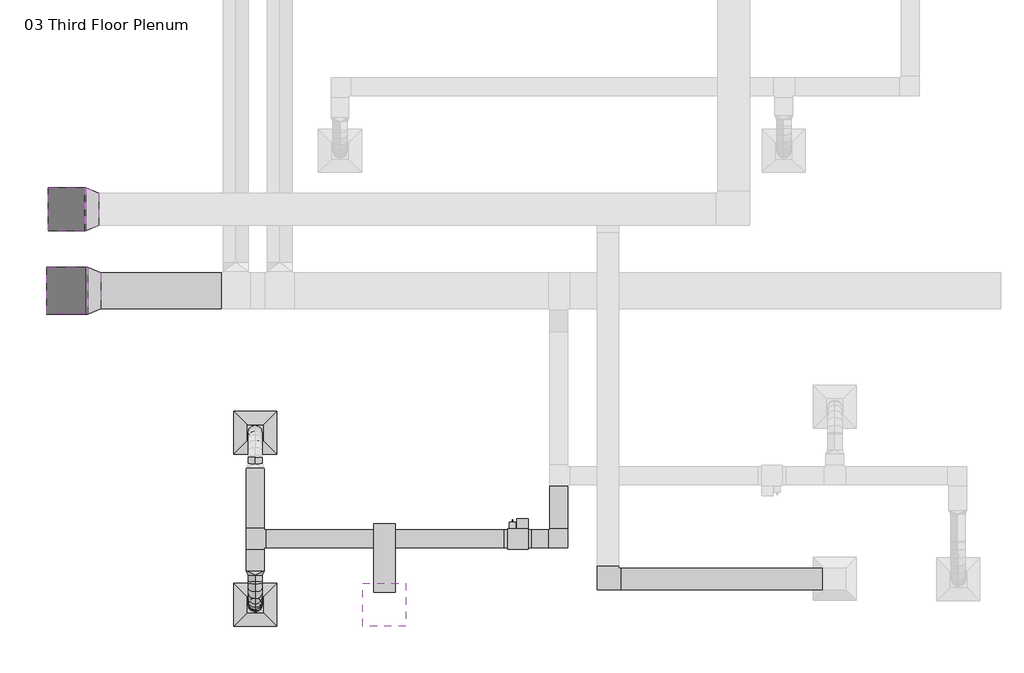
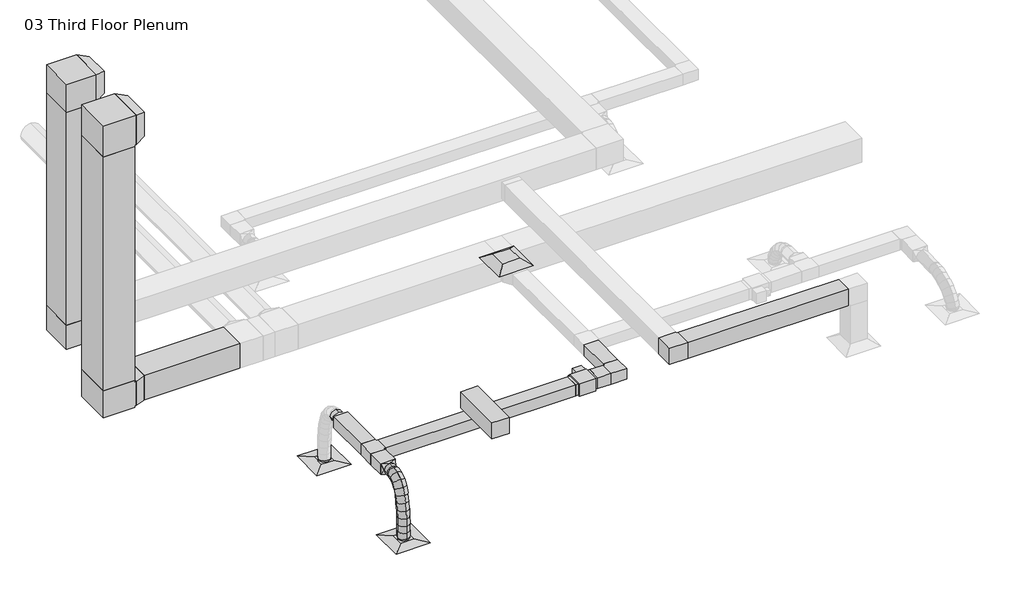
# One storey, part 1 of 9: 13 duct segments, 12 duct fittings, 3 air terminals, 1 proxy.
"""IFC4 building model written with IfcOpenShell, lengths in millimetres."""

from ifc_helpers import new_model, si_unit, point, frame, frame_2d, origin, place, context, project, spatial, polyline, circle_curve, ellipse_curve, trimmed, segment, composite_curve, outline, extrude, transform, mapped, element, save
from ifc_brep_helpers import plane_surface, cylinder_surface, advanced_brep
from components import exhaust_diffuser_hosted_workplane_based_exhaust_diffuser_7695a80a, supply_diffuser_rectangular_face_round_neck_d30_6390248a, supply_diffuser_rectangular_face_round_neck_d30_79c6f163, bcn6785_vav_d30_vav1_8c327968, rectangular_elbow_mitered_standard_e7d4be16, rectangular_elbow_mitered_standard_0526e773, rectangular_elbow_mitered_standard_f09b78ec, rectangular_elbow_mitered_standard_4ff1c4e8, rectangular_tee_standard_dbb21c28, rectangular_tee_standard_b2181136, rectangular_tee_standard_b316833c, rectangular_transition_angle_45_degree_4f42cd9e, rectangular_transition_angle_45_degree_1937f1fd, rectangular_transition_angle_45_degree_104dd07f, rectangular_transition_angle_45_degree_9b910bf7, rectangular_to_round_transition_angle_45_degree_e9430680

model = new_model("IFC4")

# Units and contexts
model_context = context("Model", 3, world=origin())
ifc_project = project(units=[si_unit("LENGTHUNIT", "METRE", prefix="MILLI")], contexts=[model_context])

# Site, building, storey
site = spatial("IfcSite", under=ifc_project)
building = spatial("IfcBuilding", under=site)
storey = spatial("IfcBuildingStorey", under=building, Name="03 Third Floor Plenum", Elevation=7620.0)

# Air terminals
placement = place(None, origin())
exhaust_diffuser_hosted_workplane_based_exhaust_diffuser_shape = exhaust_diffuser_hosted_workplane_based_exhaust_diffuser_7695a80a(model_context)
element("IfcAirTerminal", 1, ObjectType="Exhaust Diffuser - Hosted : Workplane-based Exhaust Diffuser", at=placement, inside=storey, context=model_context, shape_type="MappedRepresentation", body=[
    mapped(exhaust_diffuser_hosted_workplane_based_exhaust_diffuser_shape, transform((-12923.6292617, -5803.3078325, 11582.4), x_axis=(1.0, 0.0, 0.0), y_axis=(0.0, -1.0, 0.0), z_axis=(0.0, 0.0, -1.0))),
])
supply_diffuser_rectangular_face_round_neck_d30_shape = supply_diffuser_rectangular_face_round_neck_d30_6390248a(model_context)
element("IfcAirTerminal", 2, ObjectType="Supply Diffuser - Rectangular Face Round Neck : D30_SupplyDiffuser_24x24 8 Neck", at=placement, inside=storey, context=model_context, shape_type="MappedRepresentation", body=[
    mapped(supply_diffuser_rectangular_face_round_neck_d30_shape, transform((-14752.4292617, -5803.3078325, 7010.4), x_axis=(1.0, 0.0, 0.0), y_axis=(0.0, 1.0, 0.0), z_axis=(0.0, 0.0, 1.0))),
])
supply_diffuser_rectangular_face_round_neck_d30_2_shape = supply_diffuser_rectangular_face_round_neck_d30_79c6f163(model_context)
element("IfcAirTerminal", 3, ObjectType="Supply Diffuser - Rectangular Face Round Neck : D30_SupplyDiffuser_24x24 8 Neck", at=placement, inside=storey, context=model_context, shape_type="MappedRepresentation", body=[
    mapped(supply_diffuser_rectangular_face_round_neck_d30_2_shape, transform((-14752.4292617, -3364.9078325, 7010.4), x_axis=(1.0, 0.0, 0.0), y_axis=(0.0, 1.0, 0.0), z_axis=(0.0, 0.0, 1.0))),
])

# Proxy
bcn6785_vav_d30_vav1_shape = bcn6785_vav_d30_vav1_8c327968(model_context)
element("IfcBuildingElementProxy", 4, Name="BCN6785_VAV : D30_VAV1", ObjectType="BCN6785_VAV : D30_VAV1", at=placement, inside=storey, context=model_context, shape_type="MappedRepresentation", body=[
    mapped(bcn6785_vav_d30_vav1_shape, transform((-10885.1038818, -4871.4453325, 7956.55), x_axis=(-1.0, 0.0, 0.0), y_axis=(0.0, -1.0, 0.0), z_axis=(0.0, 0.0, 1.0))),
])

# Duct fittings
rectangular_elbow_mitered_standard_shape = rectangular_elbow_mitered_standard_e7d4be16(model_context)
element("IfcDuctFitting", 5, ObjectType="Rectangular Elbow - Mitered : Standard", at=placement, inside=storey, context=model_context, shape_type="MappedRepresentation", body=[
    mapped(rectangular_elbow_mitered_standard_shape, transform((-17428.9542617, -1355.9265825, 13030.2), x_axis=(0.0, 0.0, 1.0), y_axis=(1.0, 0.0, 0.0), z_axis=(0.0, 1.0, 0.0))),
])
rectangular_elbow_mitered_standard_2_shape = rectangular_elbow_mitered_standard_0526e773(model_context)
element("IfcDuctFitting", 6, ObjectType="Rectangular Elbow - Mitered : Standard", at=placement, inside=storey, context=model_context, shape_type="MappedRepresentation", body=[
    mapped(rectangular_elbow_mitered_standard_2_shape, transform((-17428.9542617, -201.3156743, 13112.75), x_axis=(0.0, 0.0, 1.0), y_axis=(1.0, 0.0, 0.0), z_axis=(0.0, 1.0, 0.0))),
])
rectangular_elbow_mitered_standard_3_shape = rectangular_elbow_mitered_standard_f09b78ec(model_context)
element("IfcDuctFitting", 7, ObjectType="Rectangular Elbow - Mitered : Standard", at=placement, inside=storey, context=model_context, shape_type="MappedRepresentation", body=[
    mapped(rectangular_elbow_mitered_standard_3_shape, transform((-10449.5105117, -4871.4453325, 8077.2), x_axis=(1.0, 0.0, 0.0), y_axis=(0.0, 1.0, 0.0), z_axis=(0.0, 0.0, 1.0))),
])
rectangular_elbow_mitered_standard_4_shape = rectangular_elbow_mitered_standard_4ff1c4e8(model_context)
element("IfcDuctFitting", 8, ObjectType="Rectangular Elbow - Mitered : Standard", at=placement, inside=storey, context=model_context, shape_type="MappedRepresentation", body=[
    mapped(rectangular_elbow_mitered_standard_4_shape, transform((-9752.7160069, -5438.1828325, 8610.6), x_axis=(0.0, -1.0, 0.0), y_axis=(1.0, 0.0, 0.0), z_axis=(0.0, 0.0, 1.0))),
])
rectangular_tee_standard_shape = rectangular_tee_standard_dbb21c28(model_context)
element("IfcDuctFitting", 9, ObjectType="Rectangular Tee : Standard", at=placement, inside=storey, context=model_context, shape_type="MappedRepresentation", body=[
    mapped(rectangular_tee_standard_shape, transform((-17428.9542617, -1355.9265825, 8077.2), x_axis=(0.0, 0.0, -1.0), y_axis=(-1.0, 0.0, 0.0), z_axis=(0.0, 1.0, 0.0))),
])
rectangular_tee_standard_2_shape = rectangular_tee_standard_b2181136(model_context)
element("IfcDuctFitting", 10, ObjectType="Rectangular Tee : Standard", at=placement, inside=storey, context=model_context, shape_type="MappedRepresentation", body=[
    mapped(rectangular_tee_standard_2_shape, transform((-17428.9542617, -201.3156743, 8610.6), x_axis=(0.0, 0.0, -1.0), y_axis=(-1.0, 0.0, 0.0), z_axis=(0.0, 1.0, 0.0))),
])
rectangular_tee_standard_3_shape = rectangular_tee_standard_b316833c(model_context)
element("IfcDuctFitting", 11, ObjectType="Rectangular Tee : Standard", at=placement, inside=storey, context=model_context, shape_type="MappedRepresentation", body=[
    mapped(rectangular_tee_standard_3_shape, transform((-14752.2538818, -4871.4453325, 8077.2), x_axis=(0.0, 1.0, 0.0), y_axis=(-1.0, 0.0, 0.0), z_axis=(0.0, 0.0, 1.0))),
])
rectangular_transition_angle_45_degree_shape = rectangular_transition_angle_45_degree_4f42cd9e(model_context)
element("IfcDuctFitting", 12, ObjectType="Rectangular Transition - Angle : 45 Degree", at=placement, inside=storey, context=model_context, shape_type="MappedRepresentation", body=[
    mapped(rectangular_transition_angle_45_degree_shape, transform((-17124.1542617, -1355.9265825, 8077.2), x_axis=(1.0, 0.0, 0.0), y_axis=(0.0, 1.0, 0.0), z_axis=(0.0, 0.0, 1.0))),
])
rectangular_transition_angle_45_degree_2_shape = rectangular_transition_angle_45_degree_1937f1fd(model_context)
element("IfcDuctFitting", 13, ObjectType="Rectangular Transition - Angle : 45 Degree", at=placement, inside=storey, context=model_context, shape_type="MappedRepresentation", body=[
    mapped(rectangular_transition_angle_45_degree_2_shape, transform((-17124.1542617, -1355.9265825, 13030.2), x_axis=(1.0, 0.0, 0.0), y_axis=(0.0, 1.0, 0.0), z_axis=(0.0, 0.0, 1.0))),
])
rectangular_transition_angle_45_degree_3_shape = rectangular_transition_angle_45_degree_104dd07f(model_context)
element("IfcDuctFitting", 14, ObjectType="Rectangular Transition - Angle : 45 Degree", at=placement, inside=storey, context=model_context, shape_type="MappedRepresentation", body=[
    mapped(rectangular_transition_angle_45_degree_3_shape, transform((-17149.5542617, -201.3156743, 8610.6), x_axis=(1.0, 0.0, 0.0), y_axis=(0.0, 1.0, 0.0), z_axis=(0.0, 0.0, 1.0))),
])
rectangular_transition_angle_45_degree_4_shape = rectangular_transition_angle_45_degree_9b910bf7(model_context)
element("IfcDuctFitting", 15, ObjectType="Rectangular Transition - Angle : 45 Degree", at=placement, inside=storey, context=model_context, shape_type="MappedRepresentation", body=[
    mapped(rectangular_transition_angle_45_degree_4_shape, transform((-17149.5542617, -201.3156743, 13112.75), x_axis=(1.0, 0.0, 0.0), y_axis=(0.0, 1.0, 0.0), z_axis=(0.0, 0.0, 1.0))),
])
rectangular_to_round_transition_angle_45_degree_shape = rectangular_to_round_transition_angle_45_degree_e9430680(model_context)
element("IfcDuctFitting", 16, ObjectType="Rectangular to Round Transition - Angle : 45 Degree", at=placement, inside=storey, context=model_context, shape_type="MappedRepresentation", body=[
    mapped(rectangular_to_round_transition_angle_45_degree_shape, transform((-14752.2538818, -5325.9690683, 8077.2), x_axis=(0.0, -1.0, 0.0), y_axis=(1.0, 0.0, 0.0), z_axis=(0.0, 0.0, 1.0))),
])

# Duct segments
element("IfcDuctSegment", 17, ObjectType="Flex - Round", at=placement, inside=storey, context=model_context, shape_type="AdvancedBrep", body=[
    advanced_brep(
    [(-14650.6538818, -5478.3690683, 8077.2), (-14752.2538818, -5478.3690683, 7975.6), (-14853.8538818, -5478.3690683, 8077.2), (-14752.2538818, -5478.3690683, 8178.8), (-14650.6538818, -5498.0308932, 8077.2), (-14752.2538818, -5485.592845, 7975.6), (-14853.8538818, -5498.0243923, 8077.2), (-14752.2538818, -5510.4624405, 8178.8), (-14650.8292644, -5803.3312055, 7064.3705463), (-14752.4526529, -5904.9069567, 7063.9537856), (-14854.0292589, -5803.2844595, 7064.3794537), (-14752.4058704, -5701.7087084, 7064.7962144), (-14650.6587929, -5573.6358419, 8058.41203), (-14752.2568125, -5530.7104134, 7964.3882006), (-14853.8587919, -5573.6138503, 8058.4158795), (-14752.2607723, -5616.5392789, 8152.4397089), (-14650.6721231, -5648.3310203, 8005.8967318), (-14752.2647876, -5575.3986256, 7932.9696426), (-14853.8721195, -5648.2946023, 8005.910724), (-14752.279455, -5721.226997, 8078.8378131), (-14650.6917669, -5704.9376653, 7925.4288971), (-14752.2785218, -5614.9756384, 7876.709878), (-14853.8917607, -5704.8938048, 7925.4534689), (-14752.3050059, -5794.8558318, 7974.172488), (-14650.7156193, -5745.939622, 7822.782636), (-14752.2981601, -5648.7336121, 7792.1985506), (-14853.9156117, -5745.8931556, 7822.8137314), (-14752.3330709, -5843.0991655, 7853.3978168), (-14650.7415759, -5773.8210986, 7703.7296721), (-14752.3214398, -5673.7397279, 7685.4232801), (-14853.9415676, -5773.7739889, 7703.7635146), (-14752.3617037, -5873.8553595, 7722.0699065), (-14650.7675321, -5791.0655114, 7574.0414647), (-14752.3457563, -5689.894802, 7563.9275451), (-14853.9675238, -5791.018431, 7574.0750864), (-14752.3892996, -5892.1891403, 7584.1890059), (-14650.7913835, -5800.1558859, 7439.4897152), (-14752.3686498, -5698.6201012, 7434.7794811), (-14853.9913757, -5800.1089991, 7439.5204723), (-14752.4141094, -5901.6447837, 7444.2307064), (-14650.8110256, -5803.5750981, 7305.8464329), (-14752.3878024, -5701.9540945, 7304.4670661), (-14854.0110187, -5803.5283597, 7305.8713903), (-14752.4342419, -5905.1493633, 7307.2507571), (-14650.8243539, -5803.8059621, 7178.884054), (-14752.4009727, -5702.1822216, 7179.0098267), (-14854.0243481, -5803.7592416, 7178.899131), (-14752.4477293, -5905.3829821, 7178.7733583)],
    [
        (0, 1, circle_curve(frame((-14752.2538818, -5478.3690683, 8077.2), z_axis=(0.0, 1.0, 0.0), x_axis=(1.0, 0.0, 0.0)), 101.6)),
        (1, 2, circle_curve(frame((-14752.2538818, -5478.3690683, 8077.2), z_axis=(0.0, 1.0, 0.0), x_axis=(1.0, 0.0, 0.0)), 101.6)),
        (2, 3, circle_curve(frame((-14752.2538818, -5478.3690683, 8077.2), z_axis=(0.0, 1.0, 0.0), x_axis=(1.0, 0.0, 0.0)), 101.6)),
        (3, 0, circle_curve(frame((-14752.2538818, -5478.3690683, 8077.2), z_axis=(0.0, 1.0, 0.0), x_axis=(1.0, 0.0, 0.0)), 101.6)),
        (0, 4),
        (4, 5, ellipse_curve(frame((-14752.2538818, -5498.0276428, 8077.2), z_axis=(3.17554954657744e-05, 0.9925934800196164, 0.12148325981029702), x_axis=(-0.0002594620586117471, 0.1214832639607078, -0.9925934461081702)), 102.3581174, 101.6)),
        (5, 1),
        (5, 6, ellipse_curve(frame((-14752.2538818, -5498.0276428, 8077.2), z_axis=(3.17554954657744e-05, 0.9925934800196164, 0.12148325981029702), x_axis=(-0.0002594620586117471, 0.1214832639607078, -0.9925934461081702)), 102.3581174, 101.6)),
        (6, 2),
        (6, 7, ellipse_curve(frame((-14752.2538818, -5498.0276428, 8077.2), z_axis=(3.17554954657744e-05, 0.9925934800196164, 0.12148325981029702), x_axis=(-0.0002594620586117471, 0.1214832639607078, -0.9925934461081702)), 102.3581174, 101.6)),
        (7, 3),
        (7, 4, ellipse_curve(frame((-14752.2538818, -5498.0276428, 8077.2), z_axis=(3.17554954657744e-05, 0.9925934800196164, 0.12148325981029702), x_axis=(-0.0002594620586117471, 0.1214832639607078, -0.9925934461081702)), 102.3581174, 101.6)),
        (8, 9, circle_curve(frame((-14752.4292617, -5803.3078325, 7064.375), z_axis=(-4.2881075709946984e-05, 0.0041458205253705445, -0.9999914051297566), x_axis=(0.999999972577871, -0.00023004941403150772, -4.3835194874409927e-05)), 101.6)),
        (9, 10, circle_curve(frame((-14752.4292617, -5803.3078325, 7064.375), z_axis=(-4.2881075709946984e-05, 0.0041458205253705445, -0.9999914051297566), x_axis=(0.999999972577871, -0.00023004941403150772, -4.3835194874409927e-05)), 101.6)),
        (10, 11, circle_curve(frame((-14752.4292617, -5803.3078325, 7064.375), z_axis=(-4.2881075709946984e-05, 0.0041458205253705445, -0.9999914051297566), x_axis=(0.999999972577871, -0.00023004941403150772, -4.3835194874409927e-05)), 101.6)),
        (11, 8, circle_curve(frame((-14752.4292617, -5803.3078325, 7064.375), z_axis=(-4.2881075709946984e-05, 0.0041458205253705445, -0.9999914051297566), x_axis=(0.999999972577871, -0.00023004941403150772, -4.3835194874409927e-05)), 101.6)),
        (4, 12),
        (12, 13, ellipse_curve(frame((-14752.2587924, -5573.6248461, 8058.4139547), z_axis=(0.0001063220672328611, 0.9097258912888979, 0.41520933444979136), x_axis=(-0.00022595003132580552, 0.41520934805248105, -0.9097258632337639)), 103.3561368, 101.6)),
        (13, 5),
        (13, 14, ellipse_curve(frame((-14752.2587924, -5573.6248461, 8058.4139547), z_axis=(0.0001063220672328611, 0.9097258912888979, 0.41520933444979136), x_axis=(-0.00022595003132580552, 0.41520934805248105, -0.9097258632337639)), 103.3561368, 101.6)),
        (14, 6),
        (14, 15, ellipse_curve(frame((-14752.2587924, -5573.6248461, 8058.4139547), z_axis=(0.0001063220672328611, 0.9097258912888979, 0.41520933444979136), x_axis=(-0.00022595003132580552, 0.41520934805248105, -0.9097258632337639)), 103.3561368, 101.6)),
        (15, 7),
        (15, 12, ellipse_curve(frame((-14752.2587924, -5573.6248461, 8058.4139547), z_axis=(0.0001063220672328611, 0.9097258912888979, 0.41520933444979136), x_axis=(-0.00022595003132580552, 0.41520934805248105, -0.9097258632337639)), 103.3561368, 101.6)),
        (12, 16),
        (16, 17, ellipse_curve(frame((-14752.2721213, -5648.3128113, 8005.9037279), z_axis=(0.00017543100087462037, 0.7072032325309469, 0.7070102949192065), x_axis=(-0.0001563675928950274, 0.7070103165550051, -0.7072032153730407)), 103.1303027, 101.6)),
        (17, 13),
        (17, 18, ellipse_curve(frame((-14752.2721213, -5648.3128113, 8005.9037279), z_axis=(0.00017543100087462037, 0.7072032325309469, 0.7070102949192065), x_axis=(-0.0001563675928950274, 0.7070103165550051, -0.7072032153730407)), 103.1303027, 101.6)),
        (18, 14),
        (18, 19, ellipse_curve(frame((-14752.2721213, -5648.3128113, 8005.9037279), z_axis=(0.00017543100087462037, 0.7072032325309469, 0.7070102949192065), x_axis=(-0.0001563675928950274, 0.7070103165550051, -0.7072032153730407)), 103.1303027, 101.6)),
        (19, 15),
        (19, 16, ellipse_curve(frame((-14752.2721213, -5648.3128113, 8005.9037279), z_axis=(0.00017543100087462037, 0.7072032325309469, 0.7070102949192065), x_axis=(-0.0001563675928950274, 0.7070103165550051, -0.7072032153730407)), 103.1303027, 101.6)),
        (16, 20),
        (20, 21, ellipse_curve(frame((-14752.2917638, -5704.9157351, 7925.441183), z_axis=(0.00020914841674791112, 0.4763870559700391, 0.8792356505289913), x_axis=(-6.938065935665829e-05, 0.8792356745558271, -0.47638705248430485)), 102.2935055, 101.6)),
        (21, 17),
        (21, 22, ellipse_curve(frame((-14752.2917638, -5704.9157351, 7925.441183), z_axis=(0.00020914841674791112, 0.4763870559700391, 0.8792356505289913), x_axis=(-6.938065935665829e-05, 0.8792356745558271, -0.47638705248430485)), 102.2935055, 101.6)),
        (22, 18),
        (22, 23, ellipse_curve(frame((-14752.2917638, -5704.9157351, 7925.441183), z_axis=(0.00020914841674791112, 0.4763870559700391, 0.8792356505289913), x_axis=(-6.938065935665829e-05, 0.8792356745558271, -0.47638705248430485)), 102.2935055, 101.6)),
        (23, 19),
        (23, 20, ellipse_curve(frame((-14752.2917638, -5704.9157351, 7925.441183), z_axis=(0.00020914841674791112, 0.4763870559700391, 0.8792356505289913), x_axis=(-6.938065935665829e-05, 0.8792356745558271, -0.47638705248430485)), 102.2935055, 101.6)),
        (20, 24),
        (24, 25, ellipse_curve(frame((-14752.3156155, -5745.9163888, 7822.7981837), z_axis=(0.00021464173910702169, 0.30033097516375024, 0.9538350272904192), x_axis=(2.3454439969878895e-05, 0.9538350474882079, -0.3003309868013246)), 101.886358, 101.6)),
        (25, 21),
        (25, 26, ellipse_curve(frame((-14752.3156155, -5745.9163888, 7822.7981837), z_axis=(0.00021464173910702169, 0.30033097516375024, 0.9538350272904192), x_axis=(2.3454439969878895e-05, 0.9538350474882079, -0.3003309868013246)), 101.886358, 101.6)),
        (26, 22),
        (26, 27, ellipse_curve(frame((-14752.3156155, -5745.9163888, 7822.7981837), z_axis=(0.00021464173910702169, 0.30033097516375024, 0.9538350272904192), x_axis=(2.3454439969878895e-05, 0.9538350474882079, -0.3003309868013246)), 101.886358, 101.6)),
        (27, 23),
        (27, 24, ellipse_curve(frame((-14752.3156155, -5745.9163888, 7822.7981837), z_axis=(0.00021464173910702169, 0.30033097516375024, 0.9538350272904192), x_axis=(2.3454439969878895e-05, 0.9538350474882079, -0.3003309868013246)), 101.886358, 101.6)),
        (24, 28),
        (28, 29, ellipse_curve(frame((-14752.3415717, -5773.7975437, 7703.7465933), z_axis=(0.00020558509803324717, 0.18013170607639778, 0.983642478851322), x_axis=(0.0001419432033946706, 0.9836424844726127, -0.18013173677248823)), 101.7217318, 101.6)),
        (29, 25),
        (29, 30, ellipse_curve(frame((-14752.3415717, -5773.7975437, 7703.7465933), z_axis=(0.00020558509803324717, 0.18013170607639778, 0.983642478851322), x_axis=(0.0001419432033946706, 0.9836424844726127, -0.18013173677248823)), 101.7217318, 101.6)),
        (30, 26),
        (30, 31, ellipse_curve(frame((-14752.3415717, -5773.7975437, 7703.7465933), z_axis=(0.00020558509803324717, 0.18013170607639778, 0.983642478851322), x_axis=(0.0001419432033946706, 0.9836424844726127, -0.18013173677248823)), 101.7217318, 101.6)),
        (31, 27),
        (31, 28, ellipse_curve(frame((-14752.3415717, -5773.7975437, 7703.7465933), z_axis=(0.00020558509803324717, 0.18013170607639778, 0.983642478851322), x_axis=(0.0001419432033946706, 0.9836424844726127, -0.18013173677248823)), 101.7217318, 101.6)),
        (28, 32),
        (32, 33, ellipse_curve(frame((-14752.3675279, -5791.0419712, 7574.0582755), z_axis=(0.00018772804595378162, 0.09965964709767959, 0.9950215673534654), x_axis=(0.00033271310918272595, 0.9950215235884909, -0.0996597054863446)), 101.6532439, 101.6)),
        (33, 29),
        (33, 34, ellipse_curve(frame((-14752.3675279, -5791.0419712, 7574.0582755), z_axis=(0.00018772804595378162, 0.09965964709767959, 0.9950215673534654), x_axis=(0.00033271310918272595, 0.9950215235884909, -0.0996597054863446)), 101.6532439, 101.6)),
        (34, 30),
        (34, 35, ellipse_curve(frame((-14752.3675279, -5791.0419712, 7574.0582755), z_axis=(0.00018772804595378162, 0.09965964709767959, 0.9950215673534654), x_axis=(0.00033271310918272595, 0.9950215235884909, -0.0996597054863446)), 101.6532439, 101.6)),
        (35, 31),
        (35, 32, ellipse_curve(frame((-14752.3675279, -5791.0419712, 7574.0582755), z_axis=(0.00018772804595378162, 0.09965964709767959, 0.9950215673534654), x_axis=(0.00033271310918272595, 0.9950215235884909, -0.0996597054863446)), 101.6532439, 101.6)),
        (32, 36),
        (36, 37, ellipse_curve(frame((-14752.3913796, -5800.1324425, 7439.5050938), z_axis=(0.00016192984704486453, 0.04650170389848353, 0.9989181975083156), x_axis=(0.0007148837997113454, 0.9989179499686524, -0.0465018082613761)), 101.6222779, 101.6)),
        (37, 33),
        (37, 38, ellipse_curve(frame((-14752.3913796, -5800.1324425, 7439.5050938), z_axis=(0.00016192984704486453, 0.04650170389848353, 0.9989181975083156), x_axis=(0.0007148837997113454, 0.9989179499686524, -0.0465018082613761)), 101.6222779, 101.6)),
        (38, 34),
        (38, 39, ellipse_curve(frame((-14752.3913796, -5800.1324425, 7439.5050938), z_axis=(0.00016192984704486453, 0.04650170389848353, 0.9989181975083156), x_axis=(0.0007148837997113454, 0.9989179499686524, -0.0465018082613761)), 101.6222779, 101.6)),
        (39, 35),
        (39, 36, ellipse_curve(frame((-14752.3913796, -5800.1324425, 7439.5050938), z_axis=(0.00016192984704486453, 0.04650170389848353, 0.9989181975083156), x_axis=(0.0007148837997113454, 0.9989179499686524, -0.0465018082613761)), 101.6222779, 101.6)),
        (36, 40),
        (40, 41, ellipse_curve(frame((-14752.4110222, -5803.5517289, 7305.8589116), z_axis=(0.00012596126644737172, 0.01369827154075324, 0.9999061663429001), x_axis=(0.0017654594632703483, 0.9999046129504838, -0.013698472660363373)), 101.6071705, 101.6)),
        (41, 37),
        (41, 42, ellipse_curve(frame((-14752.4110222, -5803.5517289, 7305.8589116), z_axis=(0.00012596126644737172, 0.01369827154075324, 0.9999061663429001), x_axis=(0.0017654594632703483, 0.9999046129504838, -0.013698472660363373)), 101.6071705, 101.6)),
        (42, 38),
        (42, 43, ellipse_curve(frame((-14752.4110222, -5803.5517289, 7305.8589116), z_axis=(0.00012596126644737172, 0.01369827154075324, 0.9999061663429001), x_axis=(0.0017654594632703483, 0.9999046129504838, -0.013698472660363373)), 101.6071705, 101.6)),
        (43, 39),
        (43, 40, ellipse_curve(frame((-14752.4110222, -5803.5517289, 7305.8589116), z_axis=(0.00012596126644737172, 0.01369827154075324, 0.9999061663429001), x_axis=(0.0017654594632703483, 0.9999046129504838, -0.013698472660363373)), 101.6071705, 101.6)),
        (40, 44),
        (44, 45, ellipse_curve(frame((-14752.424351, -5803.7826018, 7178.8915925), z_axis=(7.393015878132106e-05, -0.0011637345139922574, 0.9999993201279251), x_axis=(0.010411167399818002, 0.9999451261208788, 0.001162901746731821)), 101.6004518, 101.6)),
        (45, 41),
        (45, 46, ellipse_curve(frame((-14752.424351, -5803.7826018, 7178.8915925), z_axis=(7.393015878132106e-05, -0.0011637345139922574, 0.9999993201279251), x_axis=(0.010411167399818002, 0.9999451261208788, 0.001162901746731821)), 101.6004518, 101.6)),
        (46, 42),
        (46, 47, ellipse_curve(frame((-14752.424351, -5803.7826018, 7178.8915925), z_axis=(7.393015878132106e-05, -0.0011637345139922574, 0.9999993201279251), x_axis=(0.010411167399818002, 0.9999451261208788, 0.001162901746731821)), 101.6004518, 101.6)),
        (47, 43),
        (47, 44, ellipse_curve(frame((-14752.424351, -5803.7826018, 7178.8915925), z_axis=(7.393015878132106e-05, -0.0011637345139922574, 0.9999993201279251), x_axis=(0.010411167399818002, 0.9999451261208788, 0.001162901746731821)), 101.6004518, 101.6)),
        (44, 8),
        (11, 45),
        (10, 46),
        (9, 47),
    ],
    [
        plane_surface(frame((-14853.8538818, -5478.3690683, 8077.2), z_axis=(0.0, 1.0, 0.0), x_axis=(0.0, 0.0, -1.0))),
        cylinder_surface(frame((-14752.2538818, -5478.3690683, 8077.2), z_axis=(0.0, 1.0, 0.0), x_axis=(1.0, 0.0, 0.0)), 101.6),
        plane_surface(frame((-14752.4292617, -5701.7087057, 7064.7962154), z_axis=(-4.2881075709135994e-05, 0.0041458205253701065, -0.9999914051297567), x_axis=(0.9999999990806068, 1.7777724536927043e-07, -4.288070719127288e-05))),
        cylinder_surface(frame((-14752.2538818, -5498.0276428, 8077.2), z_axis=(6.304059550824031e-05, 0.9704836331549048, 0.24116698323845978), x_axis=(0.9999999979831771, -6.304059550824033e-05, -7.715522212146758e-06)), 101.6),
        cylinder_surface(frame((-14752.2587924, -5573.6248461, 8058.4139547), z_axis=(0.00014599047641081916, 0.8180536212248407, 0.5751419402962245), x_axis=(0.9999999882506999, -0.00014631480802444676, -4.572282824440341e-05)), 101.6),
        cylinder_surface(frame((-14752.2721213, -5648.3128113, 8005.9037279), z_axis=(0.0001996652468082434, 0.5753651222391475, 0.8178966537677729), x_axis=(0.9999999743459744, -0.00020236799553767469, -0.00010176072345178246)), 101.6),
        cylinder_surface(frame((-14752.2917638, -5704.9157351, 7925.441183), z_axis=(0.00021579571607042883, 0.3709495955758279, 0.9286529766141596), x_axis=(0.9999999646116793, -0.00022454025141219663, -0.0001426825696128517)), 101.6),
        cylinder_surface(frame((-14752.3156155, -5745.9163888, 7822.7981837), z_axis=(0.00021228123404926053, 0.2280241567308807, 0.9736554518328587), x_axis=(0.9999999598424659, -0.00023121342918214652, -0.0001638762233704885)), 101.6),
        cylinder_surface(frame((-14752.3415717, -5773.7975437, 7703.7465933), z_axis=(0.00019839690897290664, 0.1318081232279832, 0.9912752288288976), x_axis=(0.9999999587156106, -0.00023220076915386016, -0.0001692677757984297)), 101.6),
        cylinder_surface(frame((-14752.3675279, -5791.0419712, 7574.0582755), z_axis=(0.00017686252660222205, 0.06740677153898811, 0.9977255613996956), x_axis=(0.9999999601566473, -0.0002314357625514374, -0.0001616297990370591)), 101.6),
        cylinder_surface(frame((-14752.3913796, -5800.1324425, 7439.5050938), z_axis=(0.00014692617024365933, 0.02557624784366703, 0.9996728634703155), x_axis=(0.9999999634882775, -0.0002304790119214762, -0.0001410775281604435)), 101.6),
        cylinder_surface(frame((-14752.4110222, -5803.5517289, 7305.8589116), z_axis=(0.00010497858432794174, 0.0018183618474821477, 0.9999983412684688), x_axis=(0.9999999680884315, -0.0002299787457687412, -0.0001045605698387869)), 101.6),
        cylinder_surface(frame((-14752.424351, -5803.7826018, 7178.8915925), z_axis=(4.288107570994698e-05, -0.004145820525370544, 0.9999914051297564), x_axis=(0.999999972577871, -0.00023004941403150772, -4.3835194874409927e-05)), 101.6),
    ],
    [
        (0, [[1, 2, 3, 4]]),
        (1, [[-1, 5, 6, 7]]),
        (1, [[-2, -7, 8, 9]]),
        (1, [[-3, -9, 10, 11]]),
        (1, [[-4, -11, 12, -5]]),
        (2, [[13, 14, 15, 16]]),
        (3, [[-6, 17, 18, 19]]),
        (3, [[-8, -19, 20, 21]]),
        (3, [[-10, -21, 22, 23]]),
        (3, [[-12, -23, 24, -17]]),
        (4, [[-18, 25, 26, 27]]),
        (4, [[-20, -27, 28, 29]]),
        (4, [[-22, -29, 30, 31]]),
        (4, [[-24, -31, 32, -25]]),
        (5, [[-26, 33, 34, 35]]),
        (5, [[-28, -35, 36, 37]]),
        (5, [[-30, -37, 38, 39]]),
        (5, [[-32, -39, 40, -33]]),
        (6, [[-34, 41, 42, 43]]),
        (6, [[-36, -43, 44, 45]]),
        (6, [[-38, -45, 46, 47]]),
        (6, [[-40, -47, 48, -41]]),
        (7, [[-42, 49, 50, 51]]),
        (7, [[-44, -51, 52, 53]]),
        (7, [[-46, -53, 54, 55]]),
        (7, [[-48, -55, 56, -49]]),
        (8, [[-50, 57, 58, 59]]),
        (8, [[-52, -59, 60, 61]]),
        (8, [[-54, -61, 62, 63]]),
        (8, [[-56, -63, 64, -57]]),
        (9, [[-58, 65, 66, 67]]),
        (9, [[-60, -67, 68, 69]]),
        (9, [[-62, -69, 70, 71]]),
        (9, [[-64, -71, 72, -65]]),
        (10, [[-66, 73, 74, 75]]),
        (10, [[-68, -75, 76, 77]]),
        (10, [[-70, -77, 78, 79]]),
        (10, [[-72, -79, 80, -73]]),
        (11, [[-74, 81, 82, 83]]),
        (11, [[-76, -83, 84, 85]]),
        (11, [[-78, -85, 86, 87]]),
        (11, [[-80, -87, 88, -81]]),
        (12, [[-82, 89, -16, 90]]),
        (12, [[-84, -90, -15, 91]]),
        (12, [[-86, -91, -14, 92]]),
        (12, [[-88, -92, -13, -89]]),
    ],
),
])
element("IfcDuctSegment", 18, ObjectType="Mitered Elbows / Taps", at=placement, inside=storey, context=model_context, shape_type="SweptSolid", body=[
    extrude(outline(polyline([(-17149.5542617, -1686.1265825), (-17708.3542617, -1686.1265825), (-17708.3542617, -1025.7265825), (-17149.5542617, -1025.7265825), (-17149.5542617, -1686.1265825)])), frame((0.0, 0.0, 8331.2), z_axis=(0.0, 0.0, 1.0), x_axis=(1.0, 0.0, 0.0)), (0.0, 0.0, 1.0), 4394.2),
])
element("IfcDuctSegment", 19, ObjectType="Mitered Elbows / Taps", at=placement, inside=storey, context=model_context, shape_type="SweptSolid", body=[
    extrude(outline(polyline([(-17174.9542617, -506.1156743), (-17682.9542617, -506.1156743), (-17682.9542617, 103.4843257), (-17174.9542617, 103.4843257), (-17174.9542617, -506.1156743)])), frame((0.0, 0.0, 8839.2), z_axis=(0.0, 0.0, 1.0), x_axis=(1.0, 0.0, 0.0)), (0.0, 0.0, 1.0), 3994.15),
])
element("IfcDuctSegment", 20, ObjectType="Mitered Elbows / Tees", at=placement, inside=storey, context=model_context, shape_type="SweptSolid", body=[
    extrude(outline(polyline([(-15230.6046386, -1101.9265825), (-15230.6046386, -1609.9265825), (-16940.1911882, -1609.9265825), (-16940.1911882, -1101.9265825), (-15230.6046386, -1101.9265825)])), frame((0.0, 0.0, 7848.6), z_axis=(0.0, 0.0, 1.0), x_axis=(1.0, 0.0, 0.0)), (0.0, 0.0, 1.0), 457.2),
])
element("IfcDuctSegment", 21, ObjectType="Mitered Elbows / Tees", at=placement, inside=storey, context=model_context, shape_type="SweptSolid", body=[
    extrude(outline(polyline([(-10576.5105117, -4127.4664214), (-10322.5105117, -4127.4664214), (-10322.5105117, -4719.0453325), (-10576.5105117, -4719.0453325), (-10576.5105117, -4127.4664214)])), frame((0.0, 0.0, 7975.6), z_axis=(0.0, 0.0, 1.0), x_axis=(1.0, 0.0, 0.0)), (0.0, 0.0, 1.0), 203.2),
])
element("IfcDuctSegment", 22, ObjectType="Mitered Elbows / Tees", at=placement, inside=storey, context=model_context, shape_type="SweptSolid", body=[
    extrude(outline(polyline([(-10601.9105117, -4744.4453325), (-10601.9105117, -4998.4453325), (-10834.3038818, -4998.4453325), (-10834.3038818, -4744.4453325), (-10601.9105117, -4744.4453325)])), frame((0.0, 0.0, 7975.6), z_axis=(0.0, 0.0, 1.0), x_axis=(1.0, 0.0, 0.0)), (0.0, 0.0, 1.0), 203.2),
])
element("IfcDuctSegment", 23, ObjectType="Mitered Elbows / Tees", at=placement, inside=storey, context=model_context, shape_type="SweptSolid", body=[
    extrude(outline(polyline([(-11228.0038818, -4744.4453325), (-11228.0038818, -4998.4453325), (-14599.8538818, -4998.4453325), (-14599.8538818, -4744.4453325), (-11228.0038818, -4744.4453325)])), frame((0.0, 0.0, 7975.6), z_axis=(0.0, 0.0, 1.0), x_axis=(1.0, 0.0, 0.0)), (0.0, 0.0, 1.0), 203.2),
])
element("IfcDuctSegment", 24, ObjectType="Mitered Elbows / Tees", at=placement, inside=storey, context=model_context, shape_type="SweptSolid", body=[
    extrude(outline(polyline([(-14879.2538818, -5023.8453325), (-14625.2538818, -5023.8453325), (-14625.2538818, -5325.9690683), (-14879.2538818, -5325.9690683), (-14879.2538818, -5023.8453325)])), frame((0.0, 0.0, 7975.6), z_axis=(0.0, 0.0, 1.0), x_axis=(1.0, 0.0, 0.0)), (0.0, 0.0, 1.0), 203.2),
])
element("IfcDuctSegment", 25, ObjectType="Mitered Elbows / Tees", at=placement, inside=storey, context=model_context, shape_type="SweptSolid", body=[
    extrude(outline(polyline([(-14879.2538818, -3867.6465968), (-14625.2538818, -3867.6465968), (-14625.2538818, -4719.0453325), (-14879.2538818, -4719.0453325), (-14879.2538818, -3867.6465968)])), frame((0.0, 0.0, 7975.6), z_axis=(0.0, 0.0, 1.0), x_axis=(1.0, 0.0, 0.0)), (0.0, 0.0, 1.0), 203.2),
])
element("IfcDuctSegment", 26, ObjectType="Mitered Elbows / Tees", at=placement, inside=storey, context=model_context, shape_type="SweptSolid", body=[
    extrude(outline(polyline([(-9574.9160069, -5590.5828325), (-9574.9160069, -5285.7828325), (-6718.4685181, -5285.7828325), (-6718.4685181, -5590.5828325), (-9574.9160069, -5590.5828325)])), frame((0.0, 0.0, 8458.2), z_axis=(0.0, 0.0, 1.0), x_axis=(1.0, 0.0, 0.0)), (0.0, 0.0, 1.0), 304.8),
])
element("IfcDuctSegment", 27, ObjectType="Mitered Elbows / Tees", at=placement, inside=storey, context=model_context, shape_type="SweptSolid", body=[
    extrude(outline(polyline([(-12771.2292617, -5625.5078325), (-13076.0292617, -5625.5078325), (-13076.0292617, -4660.3078325), (-12771.2292617, -4660.3078325), (-12771.2292617, -5625.5078325)])), frame((0.0, 0.0, 8191.5), z_axis=(0.0, 0.0, 1.0), x_axis=(1.0, 0.0, 0.0)), (0.0, 0.0, 1.0), 304.8),
])
element("IfcDuctSegment", 28, ObjectType="Taps", at=placement, inside=storey, context=model_context, shape_type="SweptSolid", body=[
    extrude(outline(composite_curve([segment(trimmed(circle_curve(frame_2d((8077.2, -14752.2538818)), 101.6), [point((8077.2, -14853.8538818))], [point((7975.6, -14752.2538818))], False, "CARTESIAN"), True, "CONTINUOUS"), segment(trimmed(circle_curve(frame_2d((8077.2, -14752.2538818)), 101.6), [point((7975.6, -14752.2538818))], [point((8077.2, -14650.6538818))], False, "CARTESIAN"), True, "CONTINUOUS"), segment(trimmed(circle_curve(frame_2d((8077.2, -14752.2538818)), 101.6), [point((8077.2, -14650.6538818))], [point((8178.8, -14752.2538818))], False, "CARTESIAN"), True, "CONTINUOUS"), segment(trimmed(circle_curve(frame_2d((8077.2, -14752.2538818)), 101.6), [point((8178.8, -14752.2538818))], [point((8077.2, -14853.8538818))], False, "CARTESIAN"), True, "CONTINUOUS")], self_intersect=False)), frame((0.0, -5478.3690683, 0.0), z_axis=(0.0, 1.0, 0.0), x_axis=(0.0, 0.0, 1.0)), (0.0, 0.0, 1.0), 91.0789755),
])
element("IfcDuctSegment", 29, ObjectType="Taps", at=placement, inside=storey, context=model_context, shape_type="SweptSolid", body=[
    extrude(outline(composite_curve([segment(trimmed(circle_curve(frame_2d((8077.2, -14752.2538818)), 101.6), [point((8077.2, -14650.6538818))], [point((8178.8, -14752.2538818))], False, "CARTESIAN"), True, "CONTINUOUS"), segment(trimmed(circle_curve(frame_2d((8077.2, -14752.2538818)), 101.6), [point((8178.8, -14752.2538818))], [point((8077.2, -14853.8538818))], False, "CARTESIAN"), True, "CONTINUOUS"), segment(trimmed(circle_curve(frame_2d((8077.2, -14752.2538818)), 101.6), [point((8077.2, -14853.8538818))], [point((7975.6, -14752.2538818))], False, "CARTESIAN"), True, "CONTINUOUS"), segment(trimmed(circle_curve(frame_2d((8077.2, -14752.2538818)), 101.6), [point((7975.6, -14752.2538818))], [point((8077.2, -14650.6538818))], False, "CARTESIAN"), True, "CONTINUOUS")], self_intersect=False)), frame((0.0, -3806.3255723, 0.0), z_axis=(0.0, 1.0, 0.0), x_axis=(0.0, 0.0, 1.0)), (0.0, 0.0, 1.0), 91.0789755),
])

save(model, "model.ifc")
